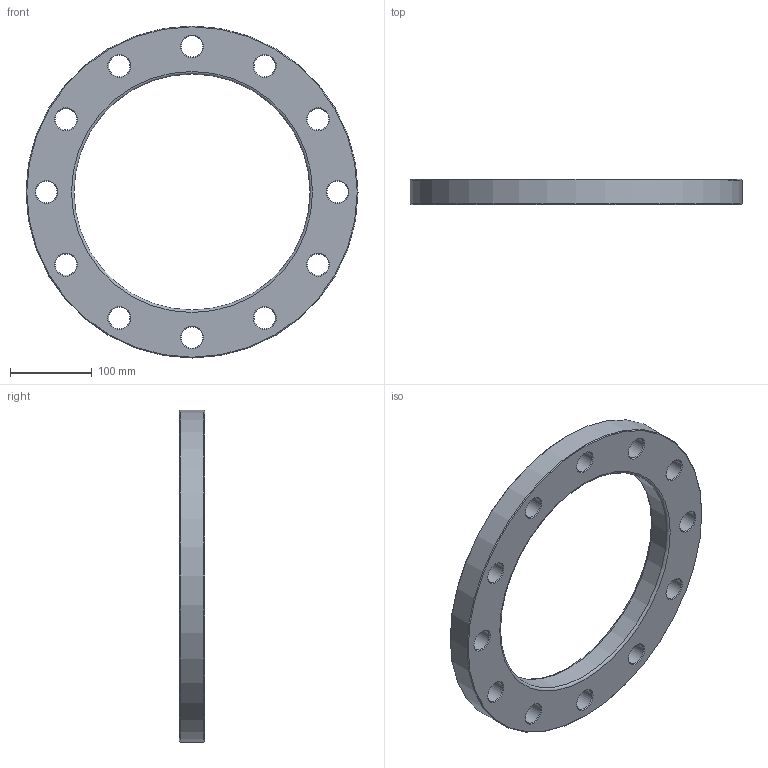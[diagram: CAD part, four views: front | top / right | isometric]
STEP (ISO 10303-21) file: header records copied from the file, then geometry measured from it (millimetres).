
FILE_DESCRIPTION(/* description */ ('Unknown'),/* implementation_level */ '2;1');
FILE_NAME(/* name */ 'FR250C',/* time_stamp */ '2022-07-05T17:06:30+02:00',/* author */ ('Unknown'),/* organization */ ('Unknown'),/* preprocessor_version */ 'ST-DEVELOPER v18.102',/* originating_system */ 'Solid Edge',/* authorisation */ 'Unknown');
FILE_SCHEMA (('AUTOMOTIVE_DESIGN {1 0 10303 214 3 1 1}'));
Length unit declared in the file: millimetre
Products named in the file (1): FR250C
Bounding box: 405 x 31 x 405 mm (x, y, z)
Volume: 1770814.4 mm3; surface area: 207563.4 mm2
Topology: 1 solids, 1 shells, 44 faces, 134 edges, 92 vertices
Faces by surface type: cone 26, cylinder 14, plane 2, torus 2
Full cylindrical faces by diameter (mm): 26 x12, 288 x1, 405 x1
Entity records: 1086 total; most frequent: DIRECTION 202, CARTESIAN_POINT 157, ORIENTED_EDGE 112, EDGE_LOOP 112, FACE_BOUND 112, AXIS2_PLACEMENT_3D 101, EDGE_CURVE 56, VERTEX_POINT 56
